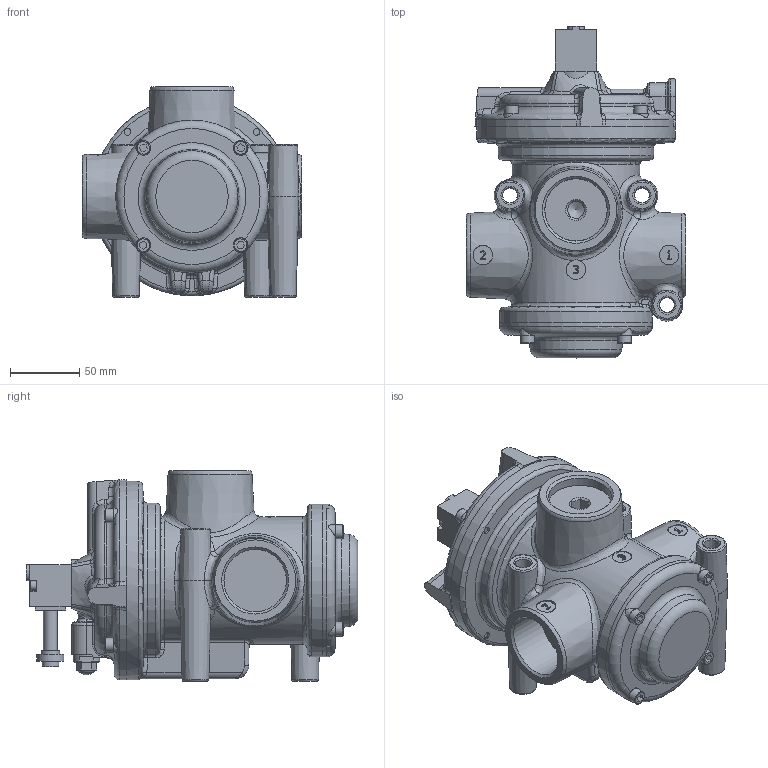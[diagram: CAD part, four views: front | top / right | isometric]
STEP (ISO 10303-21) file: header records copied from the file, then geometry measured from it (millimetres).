
FILE_DESCRIPTION(/* description */ ('EV.OTT. x VUOTO 2/2 NC SOL-MOLLA ALIM.EST. CON M3R'),/* implementation_level */ '2;1');
FILE_NAME(/* name */ 'C:\PNX_VAULTFOLDER\Area Tecnica\Disegni\VARIE-3D\Componenti\1900 (vuoto)\N776-V_22_0_1C_M3R.stp',/* time_stamp */ '2018-06-20T11:11:38+02:00',/* author */ ('maniean1'),/* organization */ ('Pneumax S.p.A.'),/* preprocessor_version */ 'ST-DEVELOPER v16.5',/* originating_system */ 'Autodesk Inventor 2017',/* authorisation */ '');
FILE_SCHEMA (('AUTOMOTIVE_DESIGN { 1 0 10303 214 3 1 1 }'));
Length unit declared in the file: millimetre
Products named in the file (1): N776/V.22.0.1C.M3R
Bounding box: 158 x 239 x 151.5 mm (x, y, z)
Volume: 1959638.9 mm3; surface area: 174096.5 mm2
Topology: 1 solids, 21 shells, 764 faces, 1822 edges, 1129 vertices
Faces by surface type: plane 281, bspline 198, cylinder 125, cone 83, torus 67, sphere 10
Full cylindrical faces by diameter (mm): 4.917 x8, 6 x11, 7 x3, 7.3 x1, 8 x4, 8.68 x1, 10 x9, 12 x2, 13.3 x1, 14 x3, 15 x1, 18 x1, 19 x1, 19.5 x1, 44.8 x1, 45 x4, 110 x2, 143 x1
Entity records: 29671 total; most frequent: CARTESIAN_POINT 13241, ORIENTED_EDGE 3202, DIRECTION 2936, EDGE_CURVE 1601, AXIS2_PLACEMENT_3D 1197, VERTEX_POINT 1058, EDGE_LOOP 969, FACE_OUTER_BOUND 764
